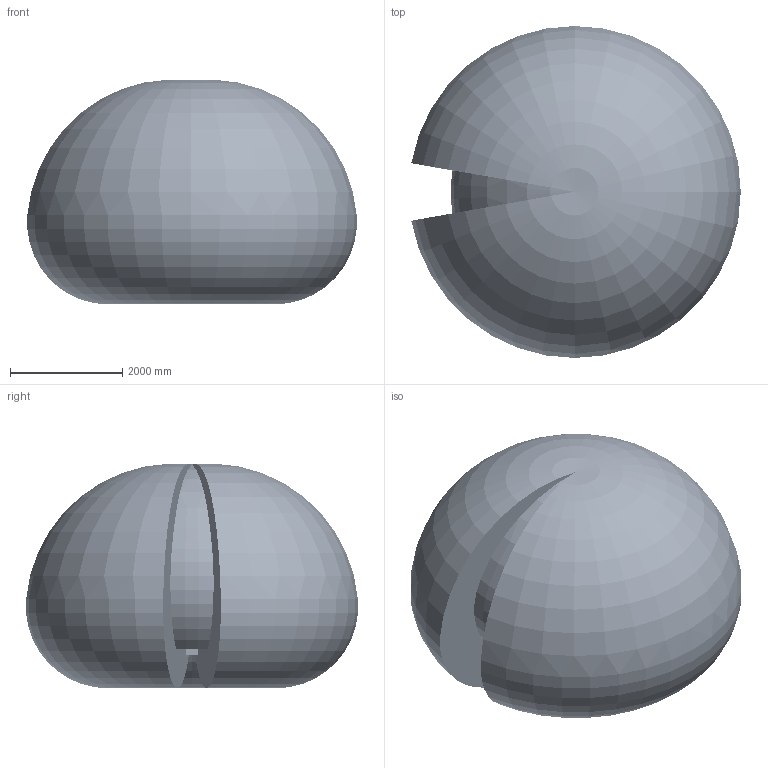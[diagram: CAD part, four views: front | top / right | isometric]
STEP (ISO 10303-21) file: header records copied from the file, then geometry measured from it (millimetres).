
FILE_DESCRIPTION (( 'STEP AP214' ), '1' );
FILE_NAME ('IRB6710-MH3_200kg-295_OC_00_ASM_CAD.STEP', '2023-05-10T09:12:41', ( '' ), ( '' ), 'SwSTEP 2.0', 'SolidWorks 2020', '' );
FILE_SCHEMA (( 'AUTOMOTIVE_DESIGN' ));
Length unit declared in the file: millimetre
Products named in the file (19): IRB6710-MH3_200kg-295_OC_00_LINK03a_CABLE; IRB6710-MH3_200kg-295_OC_00_LINK02m_CABLE; IRB6710-MH3_200kg-295_OC_00_LINK03_CAD; IRB6710-MH3_200kg-295_OC_00_LINK02_CAD; IRB6710-MH3_200kg-295_OC_00_ASM_CAD; IRB6710-MH3_200kg-295_OC_00_LINK03b_CABLE; IRB6710-MH3_200kg-295_OC_00_LINK01m_CABLE; IRB6710-MH3_200kg-295_OC_00_ROD_CAD; IRB6710-MH3_200kg-295_OC_00_CYL_CAD; IRB6710-MH3_200kg-295_OC_00_LINK04_CAD; IRB6710-MH3_200kg-295_OC_00_LINK03m_CABLE; IRB6710-MH3_200kg-295_OC_00_LINK01_CABLE; IRB6710-MH3_200kg-295_OC_00_LINK02_CABLE; IRB6710-MH3_200kg-295_OC_00_LINK06_CAD; IRB6710-MH3_200kg-295_OC_00_Working-space; IRB6710-MH3_200kg-295_OC_00_LINK04_CABLE; IRB6710-MH3_200kg-295_OC_00_LINK01_CAD; IRB6710-MH3_200kg-295_OC_00_LINK05_CAD; IRB6710-MH3_200kg-295_OC_00_BASE_CAD
Assembly tree (18 placements, depth 2):
  IRB6710-MH3_200kg-295_OC_00_ASM_CAD
    IRB6710-MH3_200kg-295_OC_00_BASE_CAD
    IRB6710-MH3_200kg-295_OC_00_CYL_CAD
    IRB6710-MH3_200kg-295_OC_00_LINK01_CAD
    IRB6710-MH3_200kg-295_OC_00_LINK02_CAD
    IRB6710-MH3_200kg-295_OC_00_LINK03_CAD
    IRB6710-MH3_200kg-295_OC_00_LINK04_CAD
    IRB6710-MH3_200kg-295_OC_00_LINK05_CAD
    IRB6710-MH3_200kg-295_OC_00_LINK06_CAD
    IRB6710-MH3_200kg-295_OC_00_ROD_CAD
    IRB6710-MH3_200kg-295_OC_00_LINK01_CABLE
    IRB6710-MH3_200kg-295_OC_00_LINK02_CABLE
    IRB6710-MH3_200kg-295_OC_00_LINK03a_CABLE
    IRB6710-MH3_200kg-295_OC_00_LINK03b_CABLE
    IRB6710-MH3_200kg-295_OC_00_LINK04_CABLE
    IRB6710-MH3_200kg-295_OC_00_LINK01m_CABLE
    IRB6710-MH3_200kg-295_OC_00_LINK02m_CABLE
    IRB6710-MH3_200kg-295_OC_00_LINK03m_CABLE
    IRB6710-MH3_200kg-295_OC_00_Working-space
Bounding box: 5865.6 x 5910.49 x 3998.23 mm (x, y, z)
Volume: 72330043900.3 mm3; surface area: 130139460.3 mm2
Topology: 20 solids, 36 shells, 8582 faces, 21812 edges, 13868 vertices
Faces by surface type: plane 4022, cylinder 2328, cone 1281, bspline 580, torus 325, sphere 46
Entity records: 617037 total; most frequent: CARTESIAN_POINT 397131, ORIENTED_EDGE 43276, DIRECTION 39850, EDGE_CURVE 21638, AXIS2_PLACEMENT_3D 14569, VERTEX_POINT 13866, VECTOR 10712, LINE 10712
